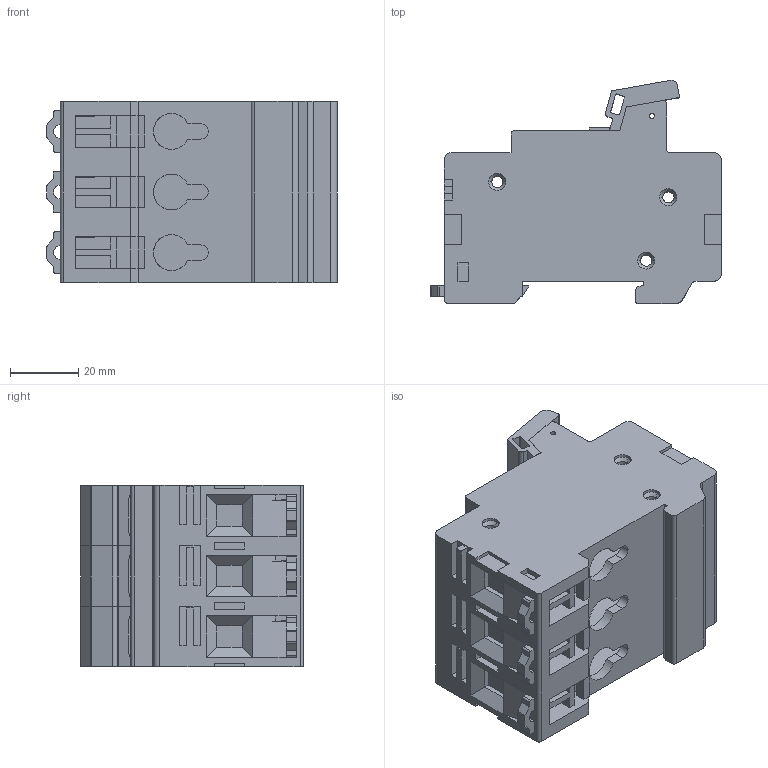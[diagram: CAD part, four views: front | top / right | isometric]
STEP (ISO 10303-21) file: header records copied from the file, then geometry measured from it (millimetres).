
FILE_DESCRIPTION((''),'2;1');
FILE_NAME('ASM0004_ASM','2016-07-07T',('Administrator'),(''),'PRO/ENGINEER BY PARAMETRIC TECHNOLOGY CORPORATION, 2012360','PRO/ENGINEER BY PARAMETRIC TECHNOLOGY CORPORATION, 2012360','');
FILE_SCHEMA(('CONFIG_CONTROL_DESIGN'));
Length unit declared in the file: inch
Products named in the file (1): ASM0004_ASM
Bounding box: 85 x 65.17 x 53.1 mm (x, y, z)
Volume: 182255.6 mm3; surface area: 39822.4 mm2
Topology: 1 solids, 21 shells, 865 faces, 2325 edges, 1526 vertices
Faces by surface type: plane 621, cylinder 214, cone 18, torus 12
Entity records: 27186 total; most frequent: CARTESIAN_POINT 4977, ORIENTED_EDGE 4650, DIRECTION 4541, EDGE_CURVE 2325, VECTOR 1743, LINE 1743, VERTEX_POINT 1526, AXIS2_PLACEMENT_3D 1399
